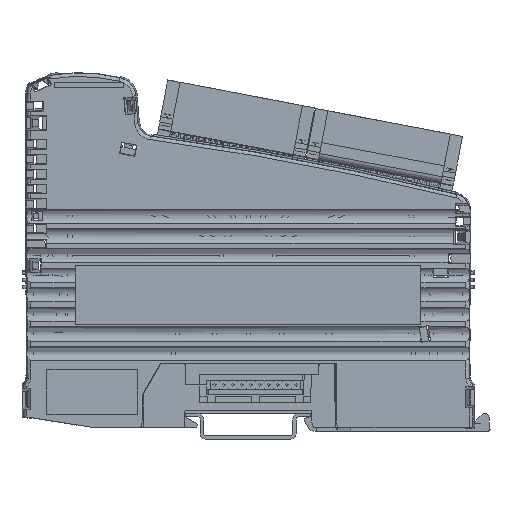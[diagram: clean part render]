
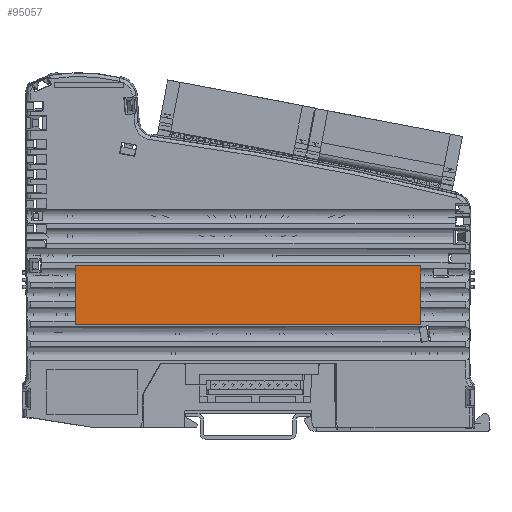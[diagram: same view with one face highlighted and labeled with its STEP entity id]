
A CAD part, left-side view. The second image highlights one B-rep face of the part: STEP entity #95057.
In plain terms, the highlighted planar face has unit normal (-1, 0, 0).
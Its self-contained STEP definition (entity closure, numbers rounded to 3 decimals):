
#8741=ORIENTED_EDGE('',*,*,#35256,.T.);
#8742=ORIENTED_EDGE('',*,*,#35255,.T.);
#8743=ORIENTED_EDGE('',*,*,#35258,.T.);
#8744=ORIENTED_EDGE('',*,*,#35250,.T.);
#8745=ORIENTED_EDGE('',*,*,#35252,.T.);
#8746=ORIENTED_EDGE('',*,*,#35253,.T.);
#8747=ORIENTED_EDGE('',*,*,#35259,.T.);
#8748=ORIENTED_EDGE('',*,*,#35260,.T.);
#8749=ORIENTED_EDGE('',*,*,#35261,.T.);
#8750=ORIENTED_EDGE('',*,*,#35257,.T.);
#35250=EDGE_CURVE('',#48785,#47923,#58414,.T.);
#35252=EDGE_CURVE('',#47923,#47930,#58416,.T.);
#35253=EDGE_CURVE('',#47930,#47933,#58417,.T.);
#35255=EDGE_CURVE('',#48782,#48786,#58419,.T.);
#35256=EDGE_CURVE('',#48783,#48782,#58420,.T.);
#35257=EDGE_CURVE('',#48784,#48783,#58421,.T.);
#35258=EDGE_CURVE('',#48786,#48785,#58422,.T.);
#35259=EDGE_CURVE('',#47933,#48787,#58423,.T.);
#35260=EDGE_CURVE('',#48787,#48788,#58424,.T.);
#35261=EDGE_CURVE('',#48788,#48784,#58425,.T.);
#47923=VERTEX_POINT('',#154514);
#47930=VERTEX_POINT('',#154619);
#47933=VERTEX_POINT('',#154726);
#48782=VERTEX_POINT('',#159563);
#48783=VERTEX_POINT('',#159567);
#48784=VERTEX_POINT('',#159571);
#48785=VERTEX_POINT('',#159576);
#48786=VERTEX_POINT('',#159584);
#48787=VERTEX_POINT('',#159593);
#48788=VERTEX_POINT('',#159595);
#58414=LINE('',#159575,#69313);
#58416=LINE('',#159579,#69315);
#58417=LINE('',#159581,#69316);
#58419=LINE('',#159585,#69318);
#58420=LINE('',#159587,#69319);
#58421=LINE('',#159589,#69320);
#58422=LINE('',#159591,#69321);
#58423=LINE('',#159592,#69322);
#58424=LINE('',#159594,#69323);
#58425=LINE('',#159596,#69324);
#69313=VECTOR('',#130392,1000.);
#69315=VECTOR('',#130396,1000.);
#69316=VECTOR('',#130399,1000.);
#69318=VECTOR('',#130403,1000.);
#69319=VECTOR('',#130406,1000.);
#69320=VECTOR('',#130409,1000.);
#69321=VECTOR('',#130412,1000.);
#69322=VECTOR('',#130413,1000.);
#69323=VECTOR('',#130414,1000.);
#69324=VECTOR('',#130415,1000.);
#79281=EDGE_LOOP('',(#8741,#8742,#8743,#8744,#8745,#8746,#8747,#8748,#8749,
#8750));
#85184=FACE_BOUND('',#79281,.T.);
#90896=PLANE('',#120202);
#95057=ADVANCED_FACE('',(#85184),#90896,.T.);
#120202=AXIS2_PLACEMENT_3D('',#159590,#130410,#130411);
#130392=DIRECTION('',(0.,0.,-1.));
#130396=DIRECTION('',(0.,0.,-1.));
#130399=DIRECTION('',(0.,0.,-1.));
#130403=DIRECTION('',(0.,0.,1.));
#130406=DIRECTION('',(0.,0.,1.));
#130409=DIRECTION('',(0.,0.,1.));
#130410=DIRECTION('',(-1.,0.,0.));
#130411=DIRECTION('',(0.,-1.,0.));
#130412=DIRECTION('',(0.,1.,0.));
#130413=DIRECTION('',(0.,0.,-1.));
#130414=DIRECTION('',(0.,-1.,0.));
#130415=DIRECTION('',(0.,0.,1.));
#154514=CARTESIAN_POINT('',(-11.5,48.483,42.8));
#154619=CARTESIAN_POINT('',(-11.5,48.483,37.3));
#154726=CARTESIAN_POINT('',(-11.5,48.483,31.8));
#159563=CARTESIAN_POINT('',(-11.5,-48.483,42.8));
#159567=CARTESIAN_POINT('',(-11.5,-48.483,37.3));
#159571=CARTESIAN_POINT('',(-11.5,-48.483,31.8));
#159575=CARTESIAN_POINT('',(-11.5,48.483,29.));
#159576=CARTESIAN_POINT('',(-11.5,48.483,45.483));
#159579=CARTESIAN_POINT('',(-11.5,48.483,29.));
#159581=CARTESIAN_POINT('',(-11.5,48.483,29.));
#159584=CARTESIAN_POINT('',(-11.5,-48.483,45.483));
#159585=CARTESIAN_POINT('',(-11.5,-48.483,29.));
#159587=CARTESIAN_POINT('',(-11.5,-48.483,29.));
#159589=CARTESIAN_POINT('',(-11.5,-48.483,29.));
#159590=CARTESIAN_POINT('',(-11.5,48.5,29.));
#159591=CARTESIAN_POINT('',(-11.5,48.5,45.483));
#159592=CARTESIAN_POINT('',(-11.5,48.483,29.));
#159593=CARTESIAN_POINT('',(-11.5,48.483,29.017));
#159594=CARTESIAN_POINT('',(-11.5,48.5,29.017));
#159595=CARTESIAN_POINT('',(-11.5,-48.483,29.017));
#159596=CARTESIAN_POINT('',(-11.5,-48.483,29.));
